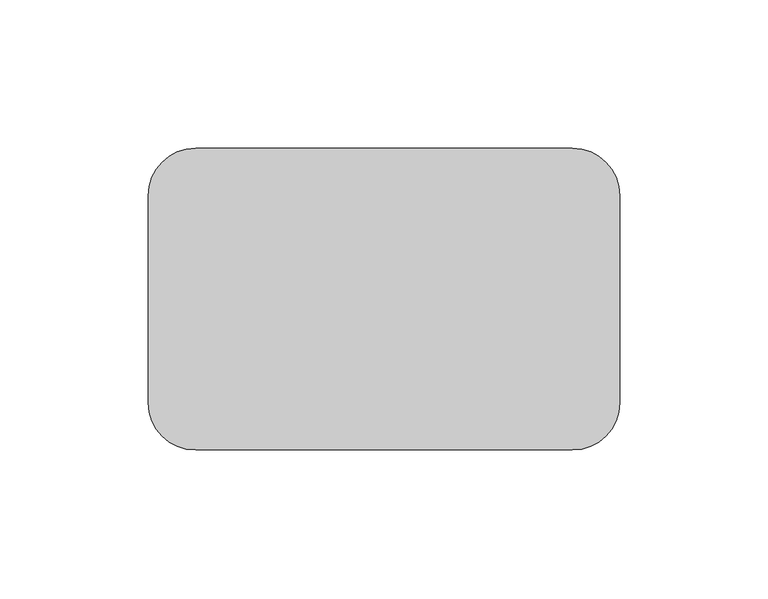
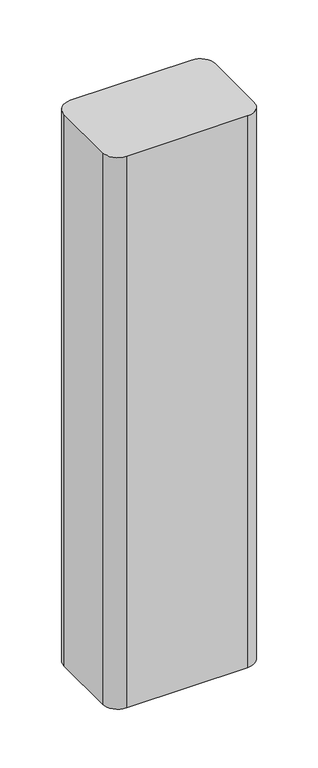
"""IFC4 building model written with IfcOpenShell, lengths in millimetres: proxy geometry, GROUTED CMU CELLS : GROUTED CMU CELLS."""

from ifc_helpers import new_model, si_unit, point, frame_2d, origin, origin_with_axes, place, context, project, spatial, polyline, circle_curve, trimmed, segment, composite_curve, outline, extrude, source, transform, mapped, element, save


def generic_models_e074341a(model_context):
    return source(origin(), model_context, "Body", "SweptSolid", [
        extrude(outline(composite_curve([segment(trimmed(circle_curve(frame_2d((63.5, 34.925)), 15.875), [point((63.5, 50.8))], [point((79.375, 34.925))], False, "CARTESIAN"), True, "CONTINUOUS"), segment(polyline([(79.375, 34.925), (79.375, -34.925)]), True, "CONTINUOUS"), segment(trimmed(circle_curve(frame_2d((63.5, -34.925)), 15.875), [point((79.375, -34.925))], [point((63.5, -50.8))], False, "CARTESIAN"), True, "CONTINUOUS"), segment(polyline([(63.5, -50.8), (-63.5, -50.8)]), True, "CONTINUOUS"), segment(trimmed(circle_curve(frame_2d((-63.5, -34.925)), 15.875), [point((-63.5, -50.8))], [point((-79.375, -34.925))], False, "CARTESIAN"), True, "CONTINUOUS"), segment(polyline([(-79.375, -34.925), (-79.375, 34.925)]), True, "CONTINUOUS"), segment(trimmed(circle_curve(frame_2d((-63.5, 34.925)), 15.875), [point((-79.375, 34.925))], [point((-63.5, 50.8))], False, "CARTESIAN"), True, "CONTINUOUS"), segment(polyline([(-63.5, 50.8), (63.5, 50.8)]), True, "CONTINUOUS")], self_intersect=False)), origin_with_axes(), (0.0, 0.0, 1.0), 609.6),
    ])


if __name__ == "__main__":
    model = new_model("IFC4")
    model_context = context("Model", 3, world=origin())
    ifc_project = project(units=[si_unit("LENGTHUNIT", "METRE", prefix="MILLI")], contexts=[model_context])
    site = spatial("IfcSite", under=ifc_project)
    building = spatial("IfcBuilding", under=site)
    placement = place(None, origin())
    generic_models_shape = generic_models_e074341a(model_context)
    element("IfcBuildingElementProxy", 1, Name="GROUTED CMU CELLS : GROUTED CMU CELLS", ObjectType="GROUTED CMU CELLS : GROUTED CMU CELLS", at=placement, inside=building, context=model_context, shape_type="MappedRepresentation", body=[
        mapped(generic_models_shape, transform((0.0, 0.0, 0.0), x_axis=(1.0, 0.0, 0.0), y_axis=(0.0, 1.0, 0.0), z_axis=(0.0, 0.0, 1.0))),
    ])
    save(model, "model.ifc")
